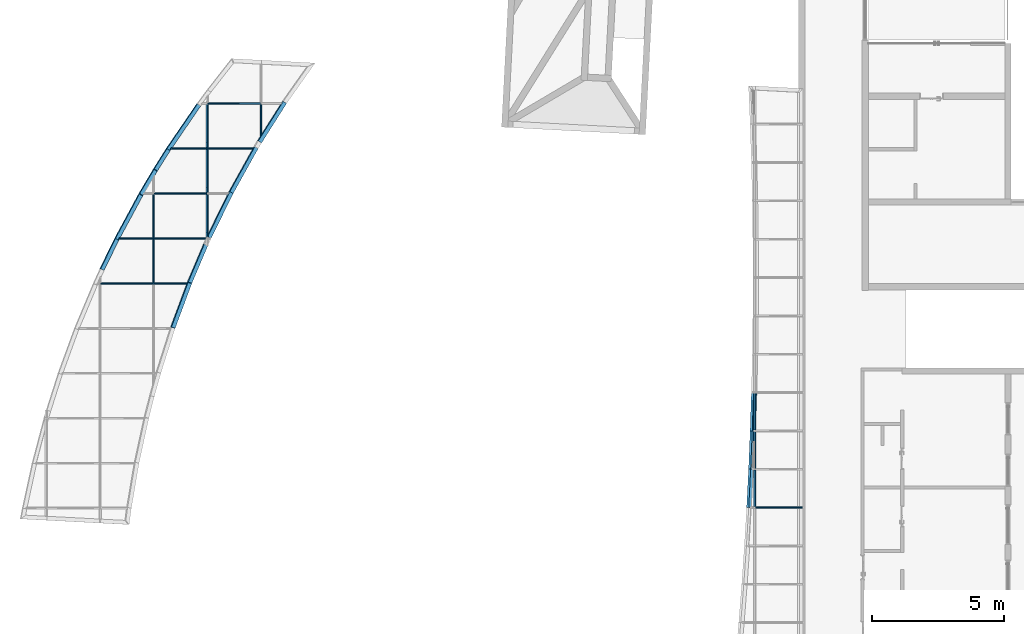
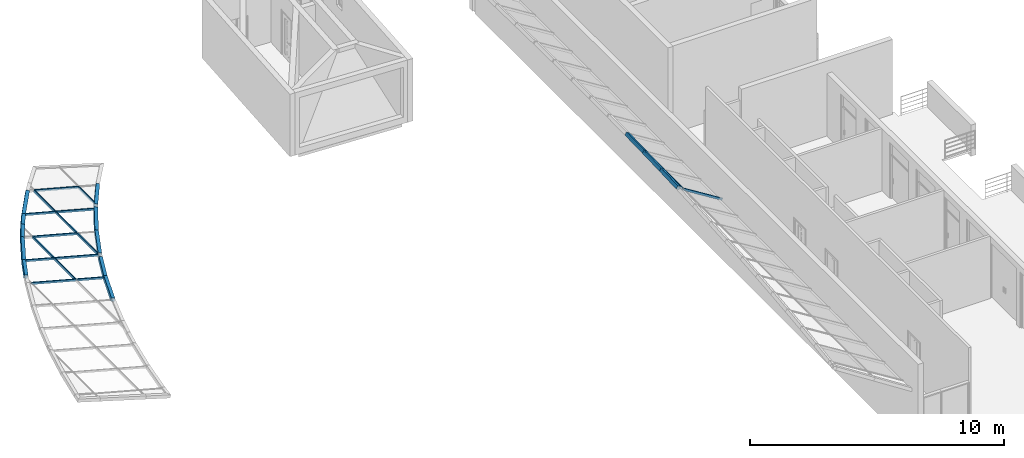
# One storey, part 4 of 33: 31 members, 2 elements without a shape of their own.
"""IFC2X3 building model written with IfcOpenShell, lengths in millimetres."""

from ifc_helpers import new_model, entity, si_unit, converted_unit, derived_unit, direction, frame, frame_2d, origin, origin_2d_with_axis, place, context, subcontext, project, spatial, rectangle, extrude, clip, halfspace, source, transform, mapped, material, type_object, type_shapes, element, aggregate, save


model = new_model("IFC2X3")

# Units and contexts
model_context = context("Model", 3, precision=0.01, world=origin(), true_north=direction((6.12303176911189e-17, 1.0)))
body_context = subcontext(model_context, "Body", "Model", "MODEL_VIEW")
ifc_project = project(units=[si_unit("LENGTHUNIT", "METRE", prefix="MILLI"), si_unit("AREAUNIT", "SQUARE_METRE"), si_unit("VOLUMEUNIT", "CUBIC_METRE"), converted_unit("PLANEANGLEUNIT", "DEGREE", entity("IfcRatioMeasure", 0.0174532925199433), si_unit("PLANEANGLEUNIT", "RADIAN"), dimensions=[0, 0, 0, 0, 0, 0, 0]), si_unit("MASSUNIT", "GRAM", prefix="KILO"), derived_unit("MASSDENSITYUNIT", [(si_unit("MASSUNIT", "GRAM", prefix="KILO"), 1), (si_unit("LENGTHUNIT", "METRE"), -3)]), si_unit("TIMEUNIT", "SECOND"), si_unit("FREQUENCYUNIT", "HERTZ"), si_unit("THERMODYNAMICTEMPERATUREUNIT", "DEGREE_CELSIUS"), derived_unit("THERMALTRANSMITTANCEUNIT", [(si_unit("MASSUNIT", "GRAM", prefix="KILO"), 1), (si_unit("THERMODYNAMICTEMPERATUREUNIT", "KELVIN"), -1), (si_unit("TIMEUNIT", "SECOND"), -3)]), derived_unit("VOLUMETRICFLOWRATEUNIT", [(si_unit("LENGTHUNIT", "METRE"), 3), (si_unit("TIMEUNIT", "SECOND"), -1)]), si_unit("ELECTRICCURRENTUNIT", "AMPERE"), si_unit("ELECTRICVOLTAGEUNIT", "VOLT"), si_unit("POWERUNIT", "WATT"), si_unit("FORCEUNIT", "NEWTON", prefix="KILO"), si_unit("ILLUMINANCEUNIT", "LUX"), si_unit("LUMINOUSFLUXUNIT", "LUMEN"), si_unit("LUMINOUSINTENSITYUNIT", "CANDELA"), derived_unit("USERDEFINED", [(si_unit("MASSUNIT", "GRAM", prefix="KILO"), -1), (si_unit("LENGTHUNIT", "METRE"), -2), (si_unit("TIMEUNIT", "SECOND"), 3), (si_unit("LUMINOUSFLUXUNIT", "LUMEN"), 1)]), derived_unit("LINEARVELOCITYUNIT", [(si_unit("LENGTHUNIT", "METRE"), 1), (si_unit("TIMEUNIT", "SECOND"), -1)]), si_unit("PRESSUREUNIT", "PASCAL"), derived_unit("USERDEFINED", [(si_unit("LENGTHUNIT", "METRE"), -2), (si_unit("MASSUNIT", "GRAM", prefix="KILO"), 1), (si_unit("TIMEUNIT", "SECOND"), -2)])], contexts=[model_context])

# Site, building, storey
site_placement = place(None, origin())
site = spatial("IfcSite", under=ifc_project, at=site_placement, Name="表面", CompositionType="ELEMENT")
building_placement = place(site_placement, origin())
building = spatial("IfcBuilding", under=site, at=building_placement, CompositionType="ELEMENT")
storey_placement = place(building_placement, frame((0.0, 0.0, 6000.0)))
storey = spatial("IfcBuildingStorey", under=building, at=storey_placement, Name="3F", CompositionType="ELEMENT", Elevation=6000.00000000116)

# Curtain wall, members
curtain_wall_type_1 = type_object("IfcCurtainWallType", Name="幕墙系统:1450 x 2100mm", PredefinedType="NOTDEFINED")
curtain_wall_1_placement = place(storey_placement, frame((0.0, 0.0, -6000.0)))
curtain_wall_1 = element("IfcCurtainWall", 1, at=curtain_wall_1_placement, inside=storey, type_object=curtain_wall_type_1, Name="幕墙系统:1450 x 2100mm", ObjectType="幕墙系统:1450 x 2100mm")
ifc_material_1 = material(Name="金属 - 铝")
member_type_1 = type_object("IfcMemberType", Name="50 x 100mm", PredefinedType="MEMBER")
shared_shape_1 = source(origin(), body_context, "Body", "SweptSolid", [
    extrude(rectangle(XDim=100.0, YDim=50.0, at=origin_2d_with_axis()), frame((0.0, 0.0, -1400.0), z_axis=(0.0, 0.0, 1.0), x_axis=(0.0, -1.0, 0.0)), (0.0, 0.0, 1.0), 1400.0),
])
type_shapes(member_type_1, [shared_shape_1])
placement = place(building_placement, frame((0.0, 0.0, 9000.0)))
member_1_placement = place(placement, frame((-16211.1509145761, -9545.89790698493, 826.048296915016), z_axis=(0.0, 1.0, 0.0), x_axis=(-0.848048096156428, 0.0, 0.529919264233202)))
member_1 = element("IfcMember", 2, at=member_1_placement, type_object=member_type_1, material=ifc_material_1, Name="矩形竖梃:50 x 100mm", ObjectType="50 x 100mm", context=body_context, shape_type="MappedRepresentation", body=[
    mapped(shared_shape_1, transform((0.0, 0.0, 0.0), scale=1.0)),
])
member_2_placement = place(placement, frame((-16211.1509145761, -10995.8979069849, 826.048296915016), z_axis=(0.0, 1.0, 0.0), x_axis=(-0.848048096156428, 0.0, 0.529919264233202)))
member_2 = element("IfcMember", 3, at=member_2_placement, type_object=member_type_1, material=ifc_material_1, Name="矩形竖梃:50 x 100mm", ObjectType="50 x 100mm", context=body_context, shape_type="MappedRepresentation", body=[
    mapped(shared_shape_1, transform((0.0, 0.0, 0.0), scale=1.0)),
])
member_3_placement = place(placement, frame((-16211.1509145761, -12445.8979069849, 826.048296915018), z_axis=(0.0, 1.0, 0.0), x_axis=(-0.848048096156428, 0.0, 0.529919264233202)))
member_3 = element("IfcMember", 4, at=member_3_placement, type_object=member_type_1, material=ifc_material_1, Name="矩形竖梃:50 x 100mm", ObjectType="50 x 100mm", context=body_context, shape_type="MappedRepresentation", body=[
    mapped(shared_shape_1, transform((0.0, 0.0, 0.0), scale=1.0)),
])
member_type_2 = type_object("IfcMemberType", Name="50 x 100mm", PredefinedType="MEMBER")
shared_shape_2 = source(origin(), body_context, "Body", "SweptSolid", [
    extrude(rectangle(XDim=100.0, YDim=50.0, at=origin_2d_with_axis()), frame((0.0, 0.0, -2100.0), z_axis=(0.0, 0.0, 1.0), x_axis=(0.0, -1.0, 0.0)), (0.0, 0.0, 1.0), 2100.0),
])
type_shapes(member_type_2, [shared_shape_2])
member_4_placement = place(storey_placement, frame((-16211.1509145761, -13870.8979069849, 3826.04829691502), z_axis=(-0.848048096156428, 0.0, 0.529919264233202), x_axis=(0.0, -1.0, 0.0)))
member_4 = element("IfcMember", 5, at=member_4_placement, type_object=member_type_2, material=ifc_material_1, Name="矩形竖梃:50 x 100mm", ObjectType="50 x 100mm", context=body_context, shape_type="MappedRepresentation", body=[
    mapped(shared_shape_2, transform((0.0, 0.0, 0.0), scale=1.0)),
])

curtain_wall_type_2 = type_object("IfcCurtainWallType", Name="幕墙系统:1700 x 2100mm", PredefinedType="NOTDEFINED")
curtain_wall_2_placement = place(storey_placement, frame((0.0, 0.0, -6000.0)))
curtain_wall_2 = element("IfcCurtainWall", 6, at=curtain_wall_2_placement, inside=storey, type_object=curtain_wall_type_2, Name="幕墙系统:1700 x 2100mm", ObjectType="幕墙系统:1700 x 2100mm")
member_type_3 = type_object("IfcMemberType", Name="50 x 100mm", PredefinedType="MEMBER")
shared_shape_3 = source(origin(), body_context, "Body", "SweptSolid", [
    extrude(rectangle(XDim=100.0, YDim=50.0, at=origin_2d_with_axis()), frame((0.0, 0.0, -2100.0), z_axis=(0.0, 0.0, 1.0), x_axis=(0.0, -1.0, 0.0)), (0.0, 0.0, 1.0), 2100.0),
])
type_shapes(member_type_3, [shared_shape_3])
member_5_placement = place(storey_placement, frame((-36910.5591012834, 1405.62731307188, 1725.98128047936), z_axis=(-0.965925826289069, 0.0, 0.258819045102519), x_axis=(0.0, -1.0, 0.0)))
member_5 = element("IfcMember", 7, at=member_5_placement, type_object=member_type_3, material=ifc_material_1, Name="矩形竖梃:50 x 100mm", ObjectType="50 x 100mm", context=body_context, shape_type="MappedRepresentation", body=[
    mapped(shared_shape_3, transform((0.0, 0.0, 0.0), scale=1.0)),
])
member_6_placement = place(storey_placement, frame((-38939.0033364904, -1994.3726869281, 2269.50127519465), z_axis=(-0.965925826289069, 0.0, 0.258819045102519), x_axis=(0.0, -1.0, 0.0)))
member_6 = element("IfcMember", 8, at=member_6_placement, type_object=member_type_3, material=ifc_material_1, Name="矩形竖梃:50 x 100mm", ObjectType="50 x 100mm", context=body_context, shape_type="MappedRepresentation", body=[
    mapped(shared_shape_3, transform((0.0, 0.0, 0.0), scale=1.0)),
])
member_7_placement = place(storey_placement, frame((-38939.0033364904, -3694.37268692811, 2269.50127519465), z_axis=(-0.965925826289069, 0.0, 0.25881904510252), x_axis=(0.0, -1.0, 0.0)))
member_7 = element("IfcMember", 9, at=member_7_placement, type_object=member_type_3, material=ifc_material_1, Name="矩形竖梃:50 x 100mm", ObjectType="50 x 100mm", context=body_context, shape_type="MappedRepresentation", body=[
    mapped(shared_shape_3, transform((0.0, 0.0, 0.0), scale=1.0)),
])
member_8_placement = place(storey_placement, frame((-40967.4475716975, -5394.3726869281, 2813.02126990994), z_axis=(-0.965925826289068, 0.0, 0.25881904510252), x_axis=(0.0, -1.0, 0.0)))
member_8 = element("IfcMember", 10, at=member_8_placement, type_object=member_type_3, material=ifc_material_1, Name="矩形竖梃:50 x 100mm", ObjectType="50 x 100mm", context=body_context, shape_type="MappedRepresentation", body=[
    mapped(shared_shape_3, transform((0.0, 0.0, 0.0), scale=1.0)),
])
ifc_material_2 = material(Name="木质 - 木材")
member_type_4 = type_object("IfcMemberType", Name="200 x 150mm", PredefinedType="MEMBER")
shared_shape_4 = source(origin(), body_context, "Body", "Clipping", [
    clip(clip(extrude(rectangle(XDim=150.0, YDim=150.0, at=frame_2d((0.0, -6.3948846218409e-14), x_axis=(1.0, 0.0))), frame((-75.0, 0.0, -1964.37501884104), z_axis=(0.0, 0.0, 1.0), x_axis=(0.0, -1.0, 0.0)), (0.0, 0.0, 1.0), 1968.35218533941), halfspace(frame((0.0, 304.800000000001, -1962.10263522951), z_axis=(0.0151474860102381, 0.0, -0.999885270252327), x_axis=(0.999885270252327, 0.0, 0.0151474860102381)), False)), halfspace(frame((0.0, 304.8, 0.0), z_axis=(0.0265051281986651, 0.0, 0.999648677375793), x_axis=(0.999648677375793, 0.0, -0.0265051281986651)), False)),
])
type_shapes(member_type_4, [shared_shape_4])
member_9_placement = place(storey_placement, frame((-35954.6202960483, -1994.37268692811, 1469.83824960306), z_axis=(-0.48230637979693, -0.866417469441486, 0.129233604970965), x_axis=(0.836895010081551, -0.499320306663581, -0.224245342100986)))
member_9 = element("IfcMember", 11, at=member_9_placement, type_object=member_type_4, material=ifc_material_2, Name="矩形竖梃:200 x 150mm", ObjectType="200 x 150mm", context=body_context, shape_type="MappedRepresentation", body=[
    mapped(shared_shape_4, transform((0.0, 0.0, 0.0), scale=1.0)),
])
member_type_5 = type_object("IfcMemberType", Name="200 x 150mm", PredefinedType="MEMBER")
shared_shape_5 = source(origin(), body_context, "Body", "Clipping", [
    clip(clip(extrude(rectangle(XDim=150.0, YDim=150.0, at=frame_2d((0.0, -4.9737991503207e-14), x_axis=(1.0, 0.0))), frame((-75.0, 0.0, -1910.53366242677), z_axis=(0.0, 0.0, 1.0), x_axis=(0.0, -1.0, 0.0)), (0.0, 0.0, 1.0), 1912.79900751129), halfspace(frame((0.0, 304.799999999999, -1906.5564959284), z_axis=(0.0265051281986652, 0.0, -0.999648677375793), x_axis=(0.999648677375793, 0.0, 0.0265051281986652)), False)), halfspace(frame((0.0, 304.8, 0.0), z_axis=(0.0151005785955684, 0.0, 0.999885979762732), x_axis=(0.999885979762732, 0.0, -0.0151005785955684)), False)),
])
type_shapes(member_type_5, [shared_shape_5])
member_10_placement = place(storey_placement, frame((-36788.3198645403, -3694.37268692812, 1693.22737571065), z_axis=(-0.437280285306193, -0.891659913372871, 0.117168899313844), x_axis=(0.86127733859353, -0.452705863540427, -0.230778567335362)))
member_10 = element("IfcMember", 12, at=member_10_placement, type_object=member_type_5, material=ifc_material_2, Name="矩形竖梃:200 x 150mm", ObjectType="200 x 150mm", context=body_context, shape_type="MappedRepresentation", body=[
    mapped(shared_shape_5, transform((0.0, 0.0, 0.0), scale=1.0)),
])
member_type_6 = type_object("IfcMemberType", Name="200 x 150mm", PredefinedType="MEMBER")
shared_shape_6 = source(origin(), body_context, "Body", "Clipping", [
    clip(clip(extrude(rectangle(XDim=150.0, YDim=150.0, at=frame_2d((-7.105427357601e-15, 1.20792265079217e-13), x_axis=(1.0, 0.0))), frame((-75.0, 0.0, -1564.92685575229), z_axis=(0.0, 0.0, 1.0), x_axis=(0.0, -1.0, 0.0)), (0.0, 0.0, 1.0), 1568.40631237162), halfspace(frame((0.0, 304.8, -1563.01474808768), z_axis=(0.0127463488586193, 0.0, -0.999918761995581), x_axis=(0.999918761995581, 0.0, 0.0127463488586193)), False)), halfspace(frame((0.0, 304.8, 0.0), z_axis=(0.0231901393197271, 0.0, 0.999731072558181), x_axis=(0.999731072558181, 0.0, -0.0231901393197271)), False)),
])
type_shapes(member_type_6, [shared_shape_6])
member_11_placement = place(storey_placement, frame((-37518.0366537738, -5394.37268692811, 1888.75440008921), z_axis=(-0.38865759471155, -0.91547803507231, 0.104140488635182), x_axis=(0.884283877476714, -0.402367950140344, -0.236943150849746)))
member_11 = element("IfcMember", 13, at=member_11_placement, type_object=member_type_6, material=ifc_material_2, Name="矩形竖梃:200 x 150mm", ObjectType="200 x 150mm", context=body_context, shape_type="MappedRepresentation", body=[
    mapped(shared_shape_6, transform((0.0, 0.0, 0.0), scale=1.0)),
])
member_type_7 = type_object("IfcMemberType", Name="200 x 150mm", PredefinedType="MEMBER")
shared_shape_7 = source(origin(), body_context, "Body", "Clipping", [
    clip(clip(extrude(rectangle(XDim=150.0, YDim=150.0, at=frame_2d((1.4210854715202e-14, 4.9737991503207e-14), x_axis=(1.0, 0.0))), frame((-75.0, 0.0, -1825.26529763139), z_axis=(0.0, 0.0, 1.0), x_axis=(0.0, -1.0, 0.0)), (0.0, 0.0, 1.0), 1828.97807854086), halfspace(frame((0.0, 304.8, -1821.78584101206), z_axis=(0.0231901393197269, 0.0, -0.999731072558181), x_axis=(0.999731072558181, 0.0, 0.0231901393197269)), False)), halfspace(frame((0.0, 304.799999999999, 0.0), z_axis=(0.0247442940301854, 0.0, 0.999693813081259), x_axis=(0.999693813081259, 0.0, -0.0247442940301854)), False)),
])
type_shapes(member_type_7, [shared_shape_7])
member_12_placement = place(storey_placement, frame((-38150.6285868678, -7094.37268692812, 2058.25689770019), z_axis=(-0.347237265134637, -0.933150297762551, 0.0930419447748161), x_axis=(0.901353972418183, -0.35948646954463, -0.241517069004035)))
member_12 = element("IfcMember", 14, at=member_12_placement, type_object=member_type_7, material=ifc_material_2, Name="矩形竖梃:200 x 150mm", ObjectType="200 x 150mm", context=body_context, shape_type="MappedRepresentation", body=[
    mapped(shared_shape_7, transform((0.0, 0.0, 0.0), scale=1.0)),
])
member_type_8 = type_object("IfcMemberType", Name="200 x 150mm", PredefinedType="MEMBER")
shared_shape_8 = source(origin(), body_context, "Body", "Clipping", [
    clip(clip(extrude(rectangle(XDim=150.0, YDim=150.0, at=frame_2d((-6.3948846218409e-14, -1.4210854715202e-14), x_axis=(1.0, 0.0))), frame((-75.0, 0.0, -1784.29051235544), z_axis=(0.0, 0.0, 1.0), x_axis=(0.0, -1.0, 0.0)), (0.0, 0.0, 1.0), 1786.37614360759), halfspace(frame((0.0, 304.800000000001, -1780.50450586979), z_axis=(0.025232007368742, 0.0, -0.999681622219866), x_axis=(0.999681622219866, 0.0, 0.025232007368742)), False)), halfspace(frame((0.0, 304.8, 0.0), z_axis=(0.0139028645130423, 0.0, 0.999903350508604), x_axis=(0.999903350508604, 0.0, -0.0139028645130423)), False)),
])
type_shapes(member_type_8, [shared_shape_8])
member_13_placement = place(storey_placement, frame((-34882.1148660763, -82.8029373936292, 1182.46128576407), z_axis=(-0.530091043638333, -0.835959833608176, 0.14203746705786), x_axis=(0.80747519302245, -0.548790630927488, -0.216362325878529)))
member_13 = element("IfcMember", 15, at=member_13_placement, type_object=member_type_8, material=ifc_material_2, Name="矩形竖梃:200 x 150mm", ObjectType="200 x 150mm", context=body_context, shape_type="MappedRepresentation", body=[
    mapped(shared_shape_8, transform((0.0, 0.0, 0.0), scale=1.0)),
])
member_type_9 = type_object("IfcMemberType", Name="200 x 150mm", PredefinedType="MEMBER")
shared_shape_9 = source(origin(), body_context, "Body", "Clipping", [
    clip(clip(extrude(rectangle(XDim=150.0, YDim=150.0, at=frame_2d((4.2632564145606e-14, -4.9737991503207e-14), x_axis=(1.0, 0.0))), frame((-75.0, 0.0, -2082.12730438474), z_axis=(0.0, 0.0, 1.0), x_axis=(0.0, -1.0, 0.0)), (0.0, 0.0, 1.0), 2082.12730438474), halfspace(frame((0.0, -304.8, -2082.12730438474), z_axis=(-0.0197467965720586, 0.0, -0.999805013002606), x_axis=(-0.999805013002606, 0.0, 0.0197467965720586)), False)), halfspace(frame((0.0, -304.8, 0.0), z_axis=(-0.0180534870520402, 0.0, 0.999837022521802), x_axis=(-0.999837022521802, 0.0, -0.0180534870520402)), False)),
])
type_shapes(member_type_9, [shared_shape_9])
member_14_placement = place(storey_placement, frame((-37296.1843776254, 1405.62731307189, 1829.30926185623), z_axis=(0.557710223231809, 0.81647265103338, -0.149438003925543), x_axis=(-0.788652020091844, 0.577384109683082, 0.211318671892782)))
member_14 = element("IfcMember", 16, at=member_14_placement, type_object=member_type_9, material=ifc_material_2, Name="矩形竖梃:200 x 150mm", ObjectType="200 x 150mm", context=body_context, shape_type="MappedRepresentation", body=[
    mapped(shared_shape_9, transform((0.0, 0.0, 0.0), scale=1.0)),
])
member_type_10 = type_object("IfcMemberType", Name="200 x 150mm", PredefinedType="MEMBER")
shared_shape_10 = source(origin(), body_context, "Body", "Clipping", [
    clip(clip(extrude(rectangle(XDim=150.0, YDim=150.0, at=frame_2d((0.0, 3.5527136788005e-14), x_axis=(1.0, 0.0))), frame((-75.0, 0.0, -915.346049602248), z_axis=(0.0, 0.0, 1.0), x_axis=(0.0, -1.0, 0.0)), (0.0, 0.0, 1.0), 915.346049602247), halfspace(frame((0.0, -304.799999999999, -915.346049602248), z_axis=(-0.0132325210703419, 0.0, -0.999912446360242), x_axis=(-0.999912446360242, 0.0, 0.0132325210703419)), False)), halfspace(frame((0.0, -304.8, 0.0), z_axis=(-0.0197467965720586, 0.0, 0.999805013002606), x_axis=(-0.999805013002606, 0.0, -0.0197467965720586)), False)),
])
type_shapes(member_type_10, [shared_shape_10])
member_15_placement = place(storey_placement, frame((-38457.4080613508, -294.372686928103, 2140.45821014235), z_axis=(0.526134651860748, 0.838634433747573, -0.140977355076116), x_axis=(-0.81005865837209, 0.544694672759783, 0.217054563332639)))
member_15 = element("IfcMember", 17, at=member_15_placement, type_object=member_type_10, material=ifc_material_2, Name="矩形竖梃:200 x 150mm", ObjectType="200 x 150mm", context=body_context, shape_type="MappedRepresentation", body=[
    mapped(shared_shape_10, transform((0.0, 0.0, 0.0), scale=1.0)),
])
member_type_11 = type_object("IfcMemberType", Name="200 x 150mm", PredefinedType="MEMBER")
shared_shape_11 = source(origin(), body_context, "Body", "Clipping", [
    clip(clip(extrude(rectangle(XDim=150.0, YDim=150.0, at=frame_2d((0.0, 8.5265128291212e-14), x_axis=(1.0, 0.0))), frame((-75.0, 0.0, -1947.32753107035), z_axis=(0.0, 0.0, 1.0), x_axis=(0.0, -1.0, 0.0)), (0.0, 0.0, 1.0), 1947.32753107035), halfspace(frame((0.0, -304.8, -1947.32753107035), z_axis=(-0.0213047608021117, 0.0, -0.999773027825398), x_axis=(-0.999773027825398, 0.0, 0.0213047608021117)), False)), halfspace(frame((0.0, -304.8, 0.0), z_axis=(-0.020031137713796, 0.0, 0.999799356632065), x_axis=(-0.999799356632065, 0.0, -0.020031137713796)), False)),
])
type_shapes(member_type_11, [shared_shape_11])
member_16_placement = place(storey_placement, frame((-39490.6136257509, -1994.3726869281, 2417.3048067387), z_axis=(0.471116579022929, 0.872991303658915, -0.126235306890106), x_axis=(-0.843244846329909, 0.487735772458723, 0.225946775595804)))
member_16 = element("IfcMember", 18, at=member_16_placement, type_object=member_type_11, material=ifc_material_2, Name="矩形竖梃:200 x 150mm", ObjectType="200 x 150mm", context=body_context, shape_type="MappedRepresentation", body=[
    mapped(shared_shape_11, transform((0.0, 0.0, 0.0), scale=1.0)),
])
member_type_12 = type_object("IfcMemberType", Name="200 x 150mm", PredefinedType="MEMBER")
shared_shape_12 = source(origin(), body_context, "Body", "Clipping", [
    clip(clip(extrude(rectangle(XDim=150.0, YDim=150.0, at=origin_2d_with_axis()), frame((-75.0, 0.0, -1286.70280005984), z_axis=(0.0, 0.0, 1.0), x_axis=(0.0, -1.0, 0.0)), (0.0, 0.0, 1.0), 1286.70280005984), halfspace(frame((0.0, -304.800000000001, -1286.70280005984), z_axis=(-0.0124919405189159, 0.0, -0.999921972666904), x_axis=(-0.999921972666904, 0.0, 0.0124919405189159)), False)), halfspace(frame((0.0, -304.800000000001, 0.0), z_axis=(-0.0213047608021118, 0.0, 0.999773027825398), x_axis=(-0.999773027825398, 0.0, -0.0213047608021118)), False)),
])
type_shapes(member_type_12, [shared_shape_12])
member_17_placement = place(storey_placement, frame((-40408.0319104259, -3694.3726869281, 2663.12629523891), z_axis=(0.434766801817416, 0.892976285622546, -0.116495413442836), x_axis=(-0.862548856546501, 0.450103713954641, 0.231119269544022)))
member_17 = element("IfcMember", 19, at=member_17_placement, type_object=member_type_12, material=ifc_material_2, Name="矩形竖梃:200 x 150mm", ObjectType="200 x 150mm", context=body_context, shape_type="MappedRepresentation", body=[
    mapped(shared_shape_12, transform((0.0, 0.0, 0.0), scale=1.0)),
])
member_type_13 = type_object("IfcMemberType", Name="200 x 150mm", PredefinedType="MEMBER")
shared_shape_13 = source(origin(), body_context, "Body", "Clipping", [
    clip(clip(extrude(rectangle(XDim=150.0, YDim=150.0, at=frame_2d((0.0, 1.4210854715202e-14), x_axis=(1.0, 0.0))), frame((-75.0, 0.0, -1093.34972887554), z_axis=(0.0, 0.0, 1.0), x_axis=(0.0, -1.0, 0.0)), (0.0, 0.0, 1.0), 1093.34972887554), halfspace(frame((0.0, -304.8, -1093.34972887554), z_axis=(-0.0200311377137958, 0.0, -0.999799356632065), x_axis=(-0.999799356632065, 0.0, 0.0200311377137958)), False)), halfspace(frame((0.0, -304.8, 0.0), z_axis=(-0.013232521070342, 0.0, 0.999912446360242), x_axis=(-0.999912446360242, 0.0, -0.013232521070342)), False)),
])
type_shapes(member_type_13, [shared_shape_13])
member_18_placement = place(storey_placement, frame((-38939.0033364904, -1062.01340291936, 2269.50127519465), z_axis=(0.504514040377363, 0.852754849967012, -0.135184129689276), x_axis=(-0.823697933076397, 0.522311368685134, 0.220709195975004)))
member_18 = element("IfcMember", 20, at=member_18_placement, type_object=member_type_13, material=ifc_material_2, Name="矩形竖梃:200 x 150mm", ObjectType="200 x 150mm", context=body_context, shape_type="MappedRepresentation", body=[
    mapped(shared_shape_13, transform((0.0, 0.0, 0.0), scale=1.0)),
])
member_type_14 = type_object("IfcMemberType", Name="50 x 100mm", PredefinedType="MEMBER")
shared_shape_14 = source(origin(), body_context, "Body", "Clipping", [
    clip(extrude(rectangle(XDim=100.0, YDim=50.0, at=origin_2d_with_axis()), frame((0.0, 0.0, -1228.18387983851), z_axis=(0.0, 0.0, 1.0), x_axis=(0.0, -1.0, 0.0)), (0.0, 0.0, 1.0), 1228.18387983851), halfspace(frame((126.538549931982, 75.0, -1382.85515978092), z_axis=(-0.83595983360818, 0.0, -0.548790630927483), x_axis=(-0.548790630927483, 0.0, 0.83595983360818)), False)),
])
type_shapes(member_type_14, [shared_shape_14])
member_19_placement = place(storey_placement, frame((-34882.1148660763, 1380.62731307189, 1182.46128576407), z_axis=(0.0, 1.0, 0.0), x_axis=(-0.965925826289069, 0.0, 0.258819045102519)))
member_19 = element("IfcMember", 21, at=member_19_placement, type_object=member_type_14, material=ifc_material_1, Name="矩形竖梃:50 x 100mm", ObjectType="50 x 100mm", context=body_context, shape_type="MappedRepresentation", body=[
    mapped(shared_shape_14, transform((0.0, 0.0, 0.0), scale=1.0)),
])
member_type_15 = type_object("IfcMemberType", Name="50 x 100mm", PredefinedType="MEMBER")
shared_shape_15 = source(origin(), body_context, "Body", "SweptSolid", [
    extrude(rectangle(XDim=100.0, YDim=50.0, at=origin_2d_with_axis()), frame((0.0, 0.0, -1650.0), z_axis=(0.0, 0.0, 1.0), x_axis=(0.0, -1.0, 0.0)), (0.0, 0.0, 1.0), 1649.99999999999),
])
type_shapes(member_type_15, [shared_shape_15])
member_20_placement = place(storey_placement, frame((-36910.5591012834, 1380.62731307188, 1725.98128047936), z_axis=(0.0, 1.0, 0.0), x_axis=(-0.965925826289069, 0.0, 0.258819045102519)))
member_20 = element("IfcMember", 22, at=member_20_placement, type_object=member_type_15, material=ifc_material_1, Name="矩形竖梃:50 x 100mm", ObjectType="50 x 100mm", context=body_context, shape_type="MappedRepresentation", body=[
    mapped(shared_shape_15, transform((0.0, 0.0, 0.0), scale=1.0)),
])
member_21_placement = place(storey_placement, frame((-36910.5591012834, -319.372686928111, 1725.98128047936), z_axis=(0.0, 1.0, 0.0), x_axis=(-0.965925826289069, 0.0, 0.258819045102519)))
member_21 = element("IfcMember", 23, at=member_21_placement, type_object=member_type_15, material=ifc_material_1, Name="矩形竖梃:50 x 100mm", ObjectType="50 x 100mm", context=body_context, shape_type="MappedRepresentation", body=[
    mapped(shared_shape_15, transform((0.0, 0.0, 0.0), scale=1.0)),
])
member_22_placement = place(storey_placement, frame((-36910.5591012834, -2019.37268692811, 1725.98128047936), z_axis=(0.0, 1.0, 0.0), x_axis=(-0.965925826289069, 0.0, 0.258819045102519)))
member_22 = element("IfcMember", 24, at=member_22_placement, type_object=member_type_15, material=ifc_material_1, Name="矩形竖梃:50 x 100mm", ObjectType="50 x 100mm", context=body_context, shape_type="MappedRepresentation", body=[
    mapped(shared_shape_15, transform((0.0, 0.0, 0.0), scale=1.0)),
])
member_23_placement = place(storey_placement, frame((-38939.0033364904, -2019.3726869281, 2269.50127519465), z_axis=(0.0, 1.0, 0.0), x_axis=(-0.965925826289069, 0.0, 0.258819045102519)))
member_23 = element("IfcMember", 25, at=member_23_placement, type_object=member_type_15, material=ifc_material_1, Name="矩形竖梃:50 x 100mm", ObjectType="50 x 100mm", context=body_context, shape_type="MappedRepresentation", body=[
    mapped(shared_shape_15, transform((0.0, 0.0, 0.0), scale=1.0)),
])
member_24_placement = place(storey_placement, frame((-38939.0033364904, -3719.37268692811, 2269.50127519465), z_axis=(0.0, 1.0, 0.0), x_axis=(-0.965925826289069, 0.0, 0.258819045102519)))
member_24 = element("IfcMember", 26, at=member_24_placement, type_object=member_type_15, material=ifc_material_1, Name="矩形竖梃:50 x 100mm", ObjectType="50 x 100mm", context=body_context, shape_type="MappedRepresentation", body=[
    mapped(shared_shape_15, transform((0.0, 0.0, 0.0), scale=1.0)),
])
member_type_16 = type_object("IfcMemberType", Name="50 x 100mm", PredefinedType="MEMBER")
shared_shape_16 = source(origin(), body_context, "Body", "Clipping", [
    clip(extrude(rectangle(XDim=100.0, YDim=50.0, at=frame_2d((-3.19744231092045e-14, 0.0), x_axis=(1.0, 0.0))), frame((0.0, 0.0, -1601.41588304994), z_axis=(0.0, 0.0, 1.0), x_axis=(0.0, -1.0, 0.0)), (0.0, 0.0, 1.0), 1435.37799177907), halfspace(frame((-1613.39238354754, 75.0, -1324.65811754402), z_axis=(-0.577384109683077, 0.0, 0.816472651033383), x_axis=(0.816472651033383, 0.0, 0.577384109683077)), False)),
])
type_shapes(member_type_16, [shared_shape_16])
member_25_placement = place(storey_placement, frame((-38457.4080613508, -294.372686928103, 2140.45821014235), z_axis=(-0.965925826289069, 0.0, 0.25881904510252), x_axis=(0.0, -1.0, 0.0)))
member_25 = element("IfcMember", 27, at=member_25_placement, type_object=member_type_16, material=ifc_material_1, Name="矩形竖梃:50 x 100mm", ObjectType="50 x 100mm", context=body_context, shape_type="MappedRepresentation", body=[
    mapped(shared_shape_16, transform((0.0, 0.0, 0.0), scale=1.0)),
])
member_type_17 = type_object("IfcMemberType", Name="50 x 100mm", PredefinedType="MEMBER")
shared_shape_17 = source(origin(), body_context, "Body", "Clipping", [
    clip(extrude(rectangle(XDim=100.0, YDim=50.0, at=origin_2d_with_axis()), frame((0.0, 0.0, -1520.85029093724), z_axis=(0.0, 0.0, 1.0), x_axis=(0.0, -1.0, 0.0)), (0.0, 0.0, 1.0), 1362.99464551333), halfspace(frame((-1626.8396341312, 75.0, -1080.72999314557), z_axis=(-0.487735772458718, 0.0, 0.872991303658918), x_axis=(0.872991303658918, 0.0, 0.487735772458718)), False)),
])
type_shapes(member_type_17, [shared_shape_17])
member_26_placement = place(storey_placement, frame((-40408.0319104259, -3694.3726869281, 2663.12629523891), z_axis=(-0.965925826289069, 0.0, 0.258819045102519), x_axis=(0.0, -1.0, 0.0)))
member_26 = element("IfcMember", 28, at=member_26_placement, type_object=member_type_17, material=ifc_material_1, Name="矩形竖梃:50 x 100mm", ObjectType="50 x 100mm", context=body_context, shape_type="MappedRepresentation", body=[
    mapped(shared_shape_17, transform((0.0, 0.0, 0.0), scale=1.0)),
])
member_type_18 = type_object("IfcMemberType", Name="50 x 100mm", PredefinedType="MEMBER")
shared_shape_18 = source(origin(), body_context, "Body", "Clipping", [
    clip(extrude(rectangle(XDim=100.0, YDim=50.0, at=frame_2d((-4.2632564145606e-14, 0.0), x_axis=(1.0, 0.0))), frame((0.0, 0.0, -1810.65927449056), z_axis=(0.0, 0.0, 1.0), x_axis=(0.0, -1.0, 0.0)), (0.0, 0.0, 1.0), 1810.65927449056), halfspace(frame((1625.10195400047, 75.0, -859.698054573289), z_axis=(0.499320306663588, 0.0, -0.866417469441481), x_axis=(-0.866417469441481, 0.0, -0.499320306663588)), False)),
])
type_shapes(member_type_18, [shared_shape_18])
member_27_placement = place(storey_placement, frame((-36910.5591012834, -294.372686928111, 1725.98128047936), z_axis=(-0.965925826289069, 0.0, 0.258819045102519), x_axis=(0.0, -1.0, 0.0)))
member_27 = element("IfcMember", 29, at=member_27_placement, type_object=member_type_18, material=ifc_material_1, Name="矩形竖梃:50 x 100mm", ObjectType="50 x 100mm", context=body_context, shape_type="MappedRepresentation", body=[
    mapped(shared_shape_18, transform((0.0, 0.0, 0.0), scale=1.0)),
])
member_type_19 = type_object("IfcMemberType", Name="50 x 100mm", PredefinedType="MEMBER")
shared_shape_19 = source(origin(), body_context, "Body", "Clipping", [
    clip(extrude(rectangle(XDim=100.0, YDim=50.0, at=frame_2d((-3.19744231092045e-14, 0.0), x_axis=(1.0, 0.0))), frame((0.0, 0.0, -1319.97814086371), z_axis=(0.0, 0.0, 1.0), x_axis=(0.0, -1.0, 0.0)), (0.0, 0.0, 1.0), 1319.97814086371), halfspace(frame((1646.07702956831, 75.0, -676.213054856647), z_axis=(0.359486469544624, 0.0, -0.933150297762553), x_axis=(-0.933150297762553, 0.0, -0.359486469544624)), False)),
])
type_shapes(member_type_19, [shared_shape_19])
member_28_placement = place(storey_placement, frame((-38939.0033364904, -5394.3726869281, 2269.50127519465), z_axis=(-0.965925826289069, 0.0, 0.258819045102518), x_axis=(0.0, -1.0, 0.0)))
member_28 = element("IfcMember", 30, at=member_28_placement, type_object=member_type_19, material=ifc_material_1, Name="矩形竖梃:50 x 100mm", ObjectType="50 x 100mm", context=body_context, shape_type="MappedRepresentation", body=[
    mapped(shared_shape_19, transform((0.0, 0.0, 0.0), scale=1.0)),
])
aggregate(curtain_wall_2, [member_9, member_10, member_11, member_12, member_13, member_14, member_15, member_16, member_17, member_18, member_19, member_20, member_21, member_22, member_23, member_24, member_25, member_26, member_5, member_27, member_6, member_7, member_28, member_8])

# Member
member_type_20 = type_object("IfcMemberType", Name="200 x 150mm", PredefinedType="MEMBER")
shared_shape_20 = source(origin(), body_context, "Body", "Clipping", [
    clip(clip(extrude(rectangle(XDim=150.0, YDim=150.0, at=origin_2d_with_axis()), frame((-75.0, 0.0, -1451.85155017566), z_axis=(0.0, 0.0, 1.0), x_axis=(0.0, -1.0, 0.0)), (0.0, 0.0, 1.0), 1452.66508064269), halfspace(frame((0.0, 304.799999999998, -1451.0379667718), z_axis=(0.00542380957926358, 0.0, -0.999985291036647), x_axis=(0.999985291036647, 0.0, 0.00542380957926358)), False)), halfspace(frame((0.0, 304.8, 0.0), z_axis=(0.0054234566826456, 0.0, 0.999985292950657), x_axis=(0.999985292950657, 0.0, -0.0054234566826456)), False)),
])
type_shapes(member_type_20, [shared_shape_20])
member_29_placement = place(placement, frame((-16295.6547991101, -9520.89790698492, 878.852184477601), z_axis=(0.0320708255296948, 0.999284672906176, -0.0200400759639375), x_axis=(-0.847441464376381, 0.0378172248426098, 0.529540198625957)))
member_29 = element("IfcMember", 31, at=member_29_placement, type_object=member_type_20, material=ifc_material_2, Name="矩形竖梃:200 x 150mm", ObjectType="200 x 150mm", context=body_context, shape_type="MappedRepresentation", body=[
    mapped(shared_shape_20, transform((0.0, 0.0, 0.0), scale=1.0)),
])

member_type_21 = type_object("IfcMemberType", Name="200 x 150mm", PredefinedType="MEMBER")
shared_shape_21 = source(origin(), body_context, "Body", "Clipping", [
    clip(clip(extrude(rectangle(XDim=150.0, YDim=150.0, at=frame_2d((2.1316282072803e-14, -1.4210854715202e-14), x_axis=(1.0, 0.0))), frame((-75.0, 0.0, -1452.53298287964), z_axis=(0.0, 0.0, 1.0), x_axis=(0.0, -1.0, 0.0)), (0.0, 0.0, 1.0), 1453.3465662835), halfspace(frame((0.0, 304.800000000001, -1451.71933108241), z_axis=(0.00542426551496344, 0.0, -0.999985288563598), x_axis=(0.999985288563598, 0.0, 0.00542426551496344)), False)), halfspace(frame((0.0, 304.8, 0.0), z_axis=(0.00542380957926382, 0.0, 0.999985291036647), x_axis=(0.999985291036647, 0.0, -0.00542380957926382)), False)),
])
type_shapes(member_type_21, [shared_shape_21])
member_30_placement = place(placement, frame((-16342.1907845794, -10970.8979069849, 907.931095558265), z_axis=(0.0412615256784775, 0.998815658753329, -0.0257830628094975), x_axis=(-0.847043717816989, 0.0486546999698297, 0.529291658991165)))
member_30 = element("IfcMember", 32, at=member_30_placement, type_object=member_type_21, material=ifc_material_2, Name="矩形竖梃:200 x 150mm", ObjectType="200 x 150mm", context=body_context, shape_type="MappedRepresentation", body=[
    mapped(shared_shape_21, transform((0.0, 0.0, 0.0), scale=1.0)),
])

member_type_22 = type_object("IfcMemberType", Name="200 x 150mm", PredefinedType="MEMBER")
shared_shape_22 = source(origin(), body_context, "Body", "Clipping", [
    clip(clip(extrude(rectangle(XDim=150.0, YDim=150.0, at=frame_2d((2.8421709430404e-14, 0.0), x_axis=(1.0, 0.0))), frame((-75.0, 0.0, -1453.38615609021), z_axis=(0.0, 0.0, 1.0), x_axis=(0.0, -1.0, 0.0)), (0.0, 0.0, 1.0), 1454.19980788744), halfspace(frame((0.0, 304.799999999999, -1452.57242023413), z_axis=(0.0054248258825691, 0.0, -0.999985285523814), x_axis=(0.999985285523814, 0.0, 0.0054248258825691)), False)), halfspace(frame((0.0, 304.8, 0.0), z_axis=(0.00542426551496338, 0.0, 0.999985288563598), x_axis=(0.999985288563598, 0.0, -0.00542426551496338)), False)),
])
type_shapes(member_type_22, [shared_shape_22])
member_31_placement = place(placement, frame((-16402.0909390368, -12420.8979069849, 945.360866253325), z_axis=(0.0504481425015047, 0.998229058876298, -0.031523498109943), x_axis=(-0.846546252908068, 0.0594873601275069, 0.528980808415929)))
member_31 = element("IfcMember", 33, at=member_31_placement, type_object=member_type_22, material=ifc_material_2, Name="矩形竖梃:200 x 150mm", ObjectType="200 x 150mm", context=body_context, shape_type="MappedRepresentation", body=[
    mapped(shared_shape_22, transform((0.0, 0.0, 0.0), scale=1.0)),
])

aggregate(curtain_wall_1, [member_29, member_30, member_31, member_1, member_2, member_3, member_4])

save(model, "model.ifc")
